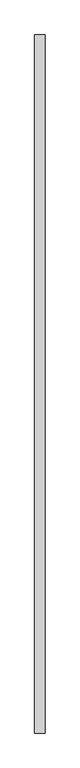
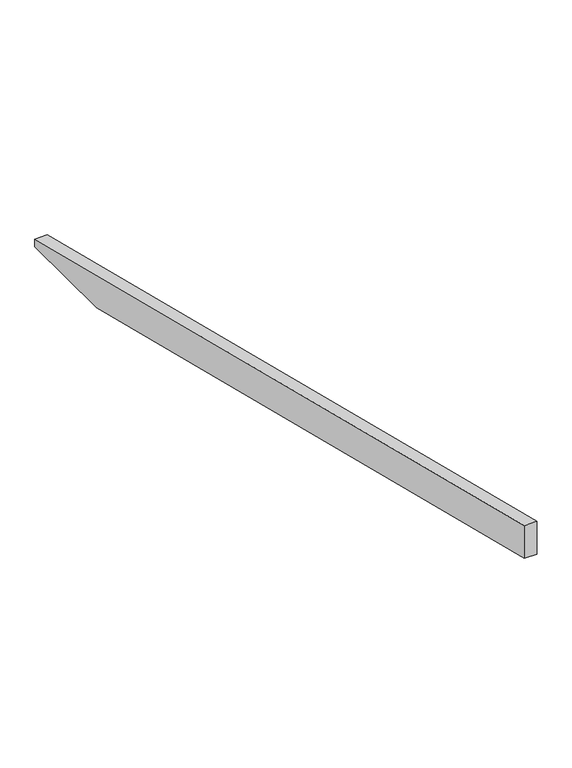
"""IFC4 building model written with IfcOpenShell, lengths in millimetres: proxy geometry, Modelos genéricos 150 : Modelos genéricos 12."""

from ifc_helpers import new_model, si_unit, frame, origin, place, context, project, spatial, polyline, outline, extrude, source, transform, mapped, element, save


def generic_models_cd409aa5(model_context):
    return source(origin(), model_context, "Body", "SweptSolid", [
        extrude(outline(polyline([(6078.6238165, 3197.4798401), (6078.6238165, 3160.0), (5567.5767654, 3160.0), (2018.6238165, 4044.8533509), (2018.6238165, 4209.7515316), (6078.6238165, 3197.4798401)])), frame((12873.4472467, 0.0, 0.0), z_axis=(1.0, 0.0, 0.0), x_axis=(0.0, 1.0, 0.0)), (0.0, 0.0, 1.0), 60.0),
    ])


if __name__ == "__main__":
    model = new_model("IFC4")
    model_context = context("Model", 3, world=origin())
    ifc_project = project(units=[si_unit("LENGTHUNIT", "METRE", prefix="MILLI")], contexts=[model_context])
    site = spatial("IfcSite", under=ifc_project)
    building = spatial("IfcBuilding", under=site)
    placement = place(None, origin())
    generic_models_shape = generic_models_cd409aa5(model_context)
    element("IfcBuildingElementProxy", 1, Name="Modelos genéricos 150 : Modelos genéricos 12", ObjectType="Modelos genéricos 150 : Modelos genéricos 12", at=placement, inside=building, context=model_context, shape_type="MappedRepresentation", body=[
        mapped(generic_models_shape, transform((0.0, 0.0, 0.0), x_axis=(1.0, 0.0, 0.0), y_axis=(0.0, 1.0, 0.0), z_axis=(0.0, 0.0, 1.0))),
    ])
    save(model, "model.ifc")
